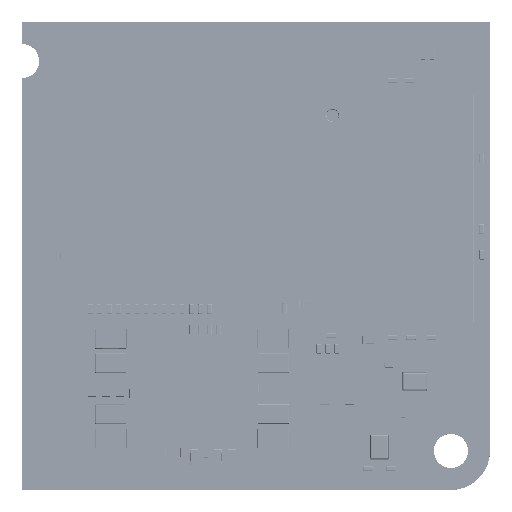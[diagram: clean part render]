
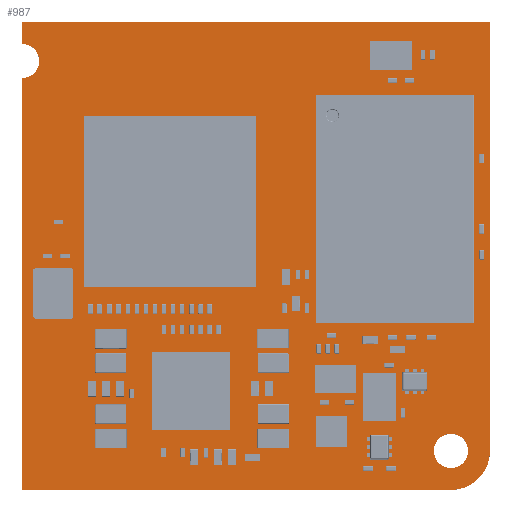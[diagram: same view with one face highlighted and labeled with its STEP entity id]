
A CAD part, top view. The second image highlights one B-rep face of the part: STEP entity #987.
In plain terms, the highlighted planar face has unit normal (0, 0, 1).
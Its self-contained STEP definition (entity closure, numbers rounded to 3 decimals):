
#688 = VERTEX_POINT('',#689);
#689 = CARTESIAN_POINT('',(0.,0.,1.392));
#695 = EDGE_CURVE('',#688,#696,#698,.T.);
#696 = VERTEX_POINT('',#697);
#697 = CARTESIAN_POINT('',(0.,26.4,1.392));
#698 = LINE('',#699,#700);
#699 = CARTESIAN_POINT('',(0.,0.,1.392));
#700 = VECTOR('',#701,1.);
#701 = DIRECTION('',(0.,1.,0.));
#726 = EDGE_CURVE('',#696,#727,#729,.T.);
#727 = VERTEX_POINT('',#728);
#728 = CARTESIAN_POINT('',(1.1,27.5,1.392));
#729 = CIRCLE('',#730,1.1);
#730 = AXIS2_PLACEMENT_3D('',#731,#732,#733);
#731 = CARTESIAN_POINT('',(0.,27.5,1.392));
#732 = DIRECTION('',(0.,-0.,1.));
#733 = DIRECTION('',(0.,-1.,-0.));
#759 = EDGE_CURVE('',#727,#760,#762,.T.);
#760 = VERTEX_POINT('',#761);
#761 = CARTESIAN_POINT('',(0.,28.6,1.392));
#762 = CIRCLE('',#763,1.1);
#763 = AXIS2_PLACEMENT_3D('',#764,#765,#766);
#764 = CARTESIAN_POINT('',(0.,27.5,1.392));
#765 = DIRECTION('',(0.,-0.,1.));
#766 = DIRECTION('',(0.,-1.,-0.));
#792 = EDGE_CURVE('',#760,#793,#795,.T.);
#793 = VERTEX_POINT('',#794);
#794 = CARTESIAN_POINT('',(0.,30.,1.392));
#795 = LINE('',#796,#797);
#796 = CARTESIAN_POINT('',(0.,28.6,1.392));
#797 = VECTOR('',#798,1.);
#798 = DIRECTION('',(0.,1.,0.));
#823 = EDGE_CURVE('',#793,#824,#826,.T.);
#824 = VERTEX_POINT('',#825);
#825 = CARTESIAN_POINT('',(30.,30.,1.392));
#826 = LINE('',#827,#828);
#827 = CARTESIAN_POINT('',(0.,30.,1.392));
#828 = VECTOR('',#829,1.);
#829 = DIRECTION('',(1.,0.,0.));
#854 = EDGE_CURVE('',#824,#855,#857,.T.);
#855 = VERTEX_POINT('',#856);
#856 = CARTESIAN_POINT('',(30.,2.5,1.392));
#857 = LINE('',#858,#859);
#858 = CARTESIAN_POINT('',(30.,30.,1.392));
#859 = VECTOR('',#860,1.);
#860 = DIRECTION('',(0.,-1.,0.));
#885 = EDGE_CURVE('',#855,#886,#888,.T.);
#886 = VERTEX_POINT('',#887);
#887 = CARTESIAN_POINT('',(27.5,0.,1.392));
#888 = CIRCLE('',#889,2.499);
#889 = AXIS2_PLACEMENT_3D('',#890,#891,#892);
#890 = CARTESIAN_POINT('',(27.501,2.499,1.392));
#891 = DIRECTION('',(0.,0.,-1.));
#892 = DIRECTION('',(1.,0.,0.));
#918 = EDGE_CURVE('',#886,#688,#919,.T.);
#919 = LINE('',#920,#921);
#920 = CARTESIAN_POINT('',(27.5,0.,1.392));
#921 = VECTOR('',#922,1.);
#922 = DIRECTION('',(-1.,0.,0.));
#942 = VERTEX_POINT('',#943);
#943 = CARTESIAN_POINT('',(28.6,2.5,1.392));
#949 = EDGE_CURVE('',#942,#942,#950,.T.);
#950 = CIRCLE('',#951,1.1);
#951 = AXIS2_PLACEMENT_3D('',#952,#953,#954);
#952 = CARTESIAN_POINT('',(27.5,2.5,1.392));
#953 = DIRECTION('',(0.,0.,1.));
#954 = DIRECTION('',(1.,0.,-0.));
#987 = ADVANCED_FACE('',(#988,#998),#1001,.F.);
#988 = FACE_BOUND('',#989,.F.);
#989 = EDGE_LOOP('',(#990,#991,#992,#993,#994,#995,#996,#997));
#990 = ORIENTED_EDGE('',*,*,#695,.T.);
#991 = ORIENTED_EDGE('',*,*,#726,.T.);
#992 = ORIENTED_EDGE('',*,*,#759,.T.);
#993 = ORIENTED_EDGE('',*,*,#792,.T.);
#994 = ORIENTED_EDGE('',*,*,#823,.T.);
#995 = ORIENTED_EDGE('',*,*,#854,.T.);
#996 = ORIENTED_EDGE('',*,*,#885,.T.);
#997 = ORIENTED_EDGE('',*,*,#918,.T.);
#998 = FACE_BOUND('',#999,.F.);
#999 = EDGE_LOOP('',(#1000));
#1000 = ORIENTED_EDGE('',*,*,#949,.T.);
#1001 = PLANE('',#1002);
#1002 = AXIS2_PLACEMENT_3D('',#1003,#1004,#1005);
#1003 = CARTESIAN_POINT('',(14.736,15.259,1.392)
  );
#1004 = DIRECTION('',(-0.,-0.,-1.));
#1005 = DIRECTION('',(-1.,0.,0.));
